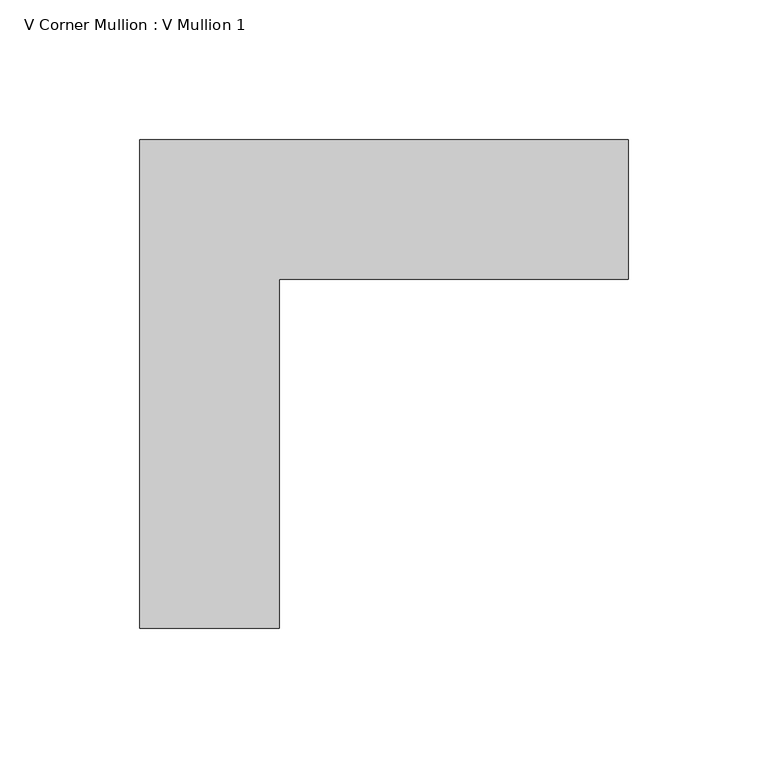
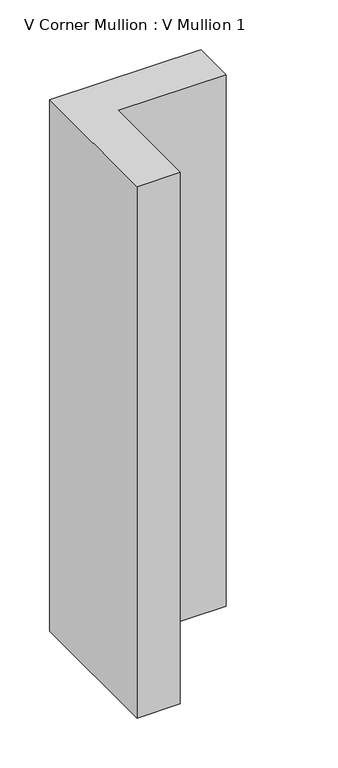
"""IFC4 building model written with IfcOpenShell, lengths in millimetres: member geometry, V Corner Mullion : V Mullion 1."""

import ifcopenshell
import ifcopenshell.guid

model = None  # the IFC model being written
_history = None  # IfcOwnerHistory: only IFC2X3 demands one
_inside = {}  # id of a spatial element -> (the spatial element, [elements in it])
_under = {}  # id of a project, library or spatial element -> (it, [spatial elements below it])
_declared = {}  # id of a project -> (the project, [libraries it declares])
_typed = {}  # id of a type object -> (the type object, [elements of that type])
_made_of = {}  # id of a material, layer set ... -> (it, [elements and type objects made of it])


def new_model(schema):
    """Start an empty IFC model of exactly this schema.

    Asked for "IFC4X3", IfcOpenShell would pick the latest addendum, in which some entities
    have other attributes; the version numbers below select the first issue.
    IFC2X3 requires an IfcOwnerHistory on every rooted entity: one is made here for all.
    """
    global model, _history
    if schema == "IFC4X3":
        model = ifcopenshell.file(schema_version=(4, 3, 0, 0))
    else:
        model = ifcopenshell.file(schema=schema)
    _inside.clear()
    _under.clear()
    _declared.clear()
    _typed.clear()
    _made_of.clear()
    _history = None
    if model.schema == "IFC2X3":
        org = make("IfcOrganization", Name="unknown")
        user = make(
            "IfcPersonAndOrganization",
            ThePerson=make("IfcPerson", FamilyName="unknown"),
            TheOrganization=org,
        )
        app = make(
            "IfcApplication",
            ApplicationDeveloper=org,
            Version="unknown",
            ApplicationFullName="unknown",
            ApplicationIdentifier="unknown",
        )
        _history = make(
            "IfcOwnerHistory",
            OwningUser=user,
            OwningApplication=app,
            ChangeAction="ADDED",
            CreationDate=0,
        )
    return model


def make(cls, **values):
    """One entity of the class cls with the attributes given. An attribute that is None is left unset."""
    return model.create_entity(
        cls, **{name: value for name, value in values.items() if value is not None}
    )


def rooted(cls, **values):
    """An entity with a GlobalId (a new one), such as an element, a storey or a relation."""
    return make(cls, GlobalId=ifcopenshell.guid.new(), OwnerHistory=_history, **values)


def si_unit(unit_type, name, prefix=None):
    """IfcSIUnit, for example si_unit("LENGTHUNIT", "METRE", prefix="MILLI")."""
    return make("IfcSIUnit", UnitType=unit_type, Prefix=prefix, Name=name)


def assignment(units):
    """IfcUnitAssignment: the units of a project."""
    return None if units is None else make("IfcUnitAssignment", Units=units)


def point(xyz):
    """IfcCartesianPoint."""
    return None if xyz is None else make("IfcCartesianPoint", Coordinates=xyz)


def direction(xyz):
    """IfcDirection."""
    return None if xyz is None else make("IfcDirection", DirectionRatios=xyz)


def frame(location, z_axis=None, x_axis=None):
    """IfcAxis2Placement3D, a coordinate frame: its origin and axes. An axis left out is left unset."""
    return make(
        "IfcAxis2Placement3D",
        Location=point(location),
        Axis=direction(z_axis),
        RefDirection=direction(x_axis),
    )


def origin():
    """The frame at (0, 0, 0) with its axes left unset."""
    return frame((0.0, 0.0, 0.0))


def place(relative_to, where):
    """IfcLocalPlacement: puts the frame where relative to a parent placement (None: the world)."""
    return make(
        "IfcLocalPlacement", PlacementRelTo=relative_to, RelativePlacement=where
    )


def context(
    kind, dimensions, precision=None, world=None, true_north=None, identifier=None
):
    """IfcGeometricRepresentationContext, for example the 3D "Model" context."""
    return make(
        "IfcGeometricRepresentationContext",
        ContextIdentifier=identifier,
        ContextType=kind,
        CoordinateSpaceDimension=dimensions,
        Precision=precision,
        WorldCoordinateSystem=world,
        TrueNorth=true_north,
    )


def project(units=None, contexts=None):
    """IfcProject with its units and contexts."""
    return rooted(
        "IfcProject",
        Name="project",
        RepresentationContexts=contexts,
        UnitsInContext=assignment(units),
    )


def spatial(cls, under=None, at=None, **own):
    """A site, building, storey or space (cls), placed at a placement, below another one or the project."""
    s = rooted(cls, ObjectPlacement=at, **own)
    if under is not None:
        _under.setdefault(under.id(), (under, []))[1].append(s)
    return s


def polyline(points):
    """IfcPolyline through the points."""
    return make("IfcPolyline", Points=[point(p) for p in points])


def outline(outer, holes=None, kind="AREA"):
    """IfcArbitraryClosedProfileDef: a profile drawn as a closed curve; with holes, ...WithVoids."""
    if holes is None:
        return make("IfcArbitraryClosedProfileDef", ProfileType=kind, OuterCurve=outer)
    return make(
        "IfcArbitraryProfileDefWithVoids",
        ProfileType=kind,
        OuterCurve=outer,
        InnerCurves=holes,
    )


def extrude(swept, where, along, depth):
    """IfcExtrudedAreaSolid: the profile swept, set in the frame where, extruded along a direction by depth."""
    return make(
        "IfcExtrudedAreaSolid",
        SweptArea=swept,
        Position=where,
        ExtrudedDirection=direction(along),
        Depth=depth,
    )


def shape(context_of_items, identifier, shape_type, items):
    """IfcShapeRepresentation: the items that make up one representation, for example the "Body"."""
    return make(
        "IfcShapeRepresentation",
        ContextOfItems=context_of_items,
        RepresentationIdentifier=identifier,
        RepresentationType=shape_type,
        Items=items,
    )


def source(mapping_origin, context_of_items, identifier, shape_type, items):
    """IfcRepresentationMap: a shape defined once, which mapped items show again and again."""
    return make(
        "IfcRepresentationMap",
        MappingOrigin=mapping_origin,
        MappedRepresentation=shape(context_of_items, identifier, shape_type, items),
    )


def transform(
    local_origin,
    x_axis=None,
    y_axis=None,
    z_axis=None,
    scale=None,
    scale2=None,
    scale3=None,
    uniform=True,
):
    """IfcCartesianTransformationOperator3D, or its non-uniform kind. x_axis, y_axis, z_axis: its Axis1, 2, 3."""
    if uniform:
        return make(
            "IfcCartesianTransformationOperator3D",
            Axis1=direction(x_axis),
            Axis2=direction(y_axis),
            LocalOrigin=point(local_origin),
            Scale=scale,
            Axis3=direction(z_axis),
        )
    return make(
        "IfcCartesianTransformationOperator3DnonUniform",
        Axis1=direction(x_axis),
        Axis2=direction(y_axis),
        LocalOrigin=point(local_origin),
        Scale=scale,
        Axis3=direction(z_axis),
        Scale2=scale2,
        Scale3=scale3,
    )


def mapped(mapping_source, mapping_target):
    """IfcMappedItem: shows the shape of a source again, moved by a transform."""
    return make(
        "IfcMappedItem", MappingSource=mapping_source, MappingTarget=mapping_target
    )


def made_of(thing, what):
    """Note that an element or type object is made of a material, layer set ...; save() writes the relation."""
    if what is not None:
        _made_of.setdefault(what.id(), (what, []))[1].append(thing)
    return thing


def element(
    cls,
    number,
    at=None,
    inside=None,
    cuts=None,
    type_object=None,
    material=None,
    context=None,
    identifier="Body",
    shape_type=None,
    held_by="IfcProductDefinitionShape",
    body=None,
    shapes=None,
    **own,
):
    """One element of the class cls, such as IfcWall. Its Tag is "e" and its number.

    at: its placement. inside: the storey or other place that contains it. cuts: it is an
    opening in that element (IfcRelVoidsElement). A single representation is given by context,
    identifier, shape_type and body (its items); several are given by shapes. held_by: the class
    of the entity that holds the representations. save() writes the other relations.
    """
    e = rooted(cls, Tag="e%d" % number, ObjectPlacement=at, **own)
    if body is not None:
        shapes = [shape(context, identifier, shape_type, body)]
    if shapes is not None:
        e.Representation = make(held_by, Representations=shapes)
    if inside is not None:
        _inside.setdefault(inside.id(), (inside, []))[1].append(e)
    if cuts is not None:
        rooted(
            "IfcRelVoidsElement", RelatingBuildingElement=cuts, RelatedOpeningElement=e
        )
    if type_object is not None:
        _typed.setdefault(type_object.id(), (type_object, []))[1].append(e)
    return made_of(e, material)


def aggregate(whole, parts):
    """IfcRelAggregates: a whole, such as a stair, and the parts it consists of."""
    return rooted("IfcRelAggregates", RelatingObject=whole, RelatedObjects=parts)


def save(model, path):
    """Write the relations noted so far, then the file.

    IfcRelAggregates (storeys below a building ...), IfcRelContainedInSpatialStructure (elements
    in a storey), IfcRelDefinesByType, IfcRelAssociatesMaterial and IfcRelDeclares: one each for
    every whole, place, type object, material and project.
    """
    for whole, parts in _under.values():
        aggregate(whole, parts)
    for where, things in _inside.values():
        rooted(
            "IfcRelContainedInSpatialStructure",
            RelatedElements=things,
            RelatingStructure=where,
        )
    for kind, things in _typed.values():
        rooted("IfcRelDefinesByType", RelatedObjects=things, RelatingType=kind)
    for what, things in _made_of.values():
        rooted("IfcRelAssociatesMaterial", RelatedObjects=things, RelatingMaterial=what)
    for by, libraries in _declared.values():
        rooted("IfcRelDeclares", RelatingContext=by, RelatedDefinitions=libraries)
    model.write(path)


def v_corner_mullion_v_mullion_1_ba732962(model_context):
    return source(origin(), model_context, "Body", "SweptSolid", [
        extrude(outline(polyline([(75.0, 50.0), (-50.0, 50.0), (-50.0, -75.0), (-100.0, -75.0), (-100.0, 100.0), (75.0, 100.0), (75.0, 50.0)])), frame((0.0, 0.0, -650.0), z_axis=(0.0, 0.0, 1.0), x_axis=(1.0, 0.0, 0.0)), (0.0, 0.0, 1.0), 650.0),
    ])


if __name__ == "__main__":
    model = new_model("IFC4")
    model_context = context("Model", 3, world=origin())
    ifc_project = project(units=[si_unit("LENGTHUNIT", "METRE", prefix="MILLI")], contexts=[model_context])
    site = spatial("IfcSite", under=ifc_project)
    building = spatial("IfcBuilding", under=site)
    placement = place(None, origin())
    v_corner_mullion_v_mullion_1_shape = v_corner_mullion_v_mullion_1_ba732962(model_context)
    element("IfcMember", 1, ObjectType="V Corner Mullion : V Mullion 1", at=placement, inside=building, context=model_context, shape_type="MappedRepresentation", body=[
        mapped(v_corner_mullion_v_mullion_1_shape, transform((0.0, 0.0, 0.0), x_axis=(1.0, 0.0, 0.0), y_axis=(0.0, 1.0, 0.0), z_axis=(0.0, 0.0, 1.0))),
    ])
    save(model, "model.ifc")
